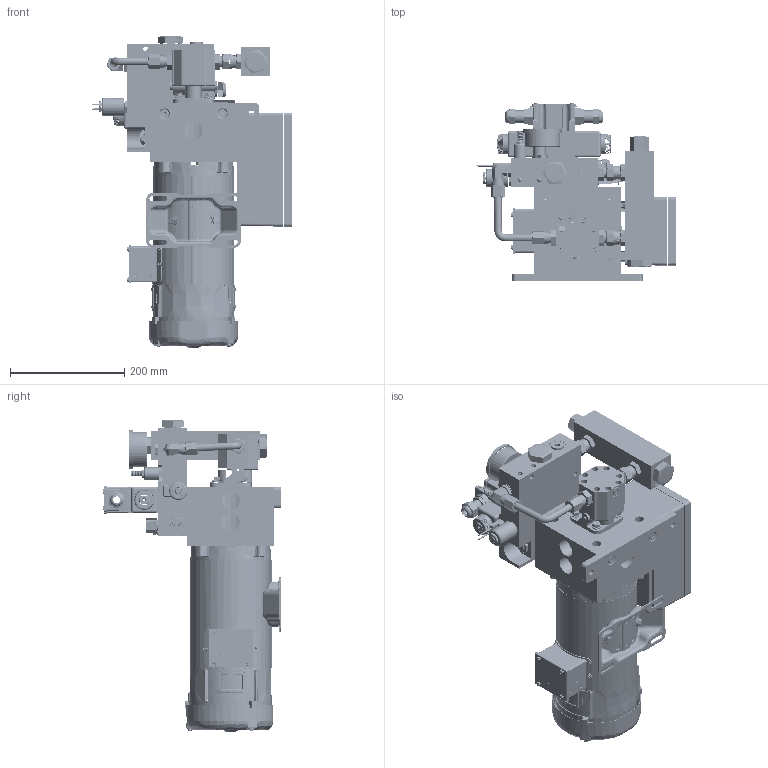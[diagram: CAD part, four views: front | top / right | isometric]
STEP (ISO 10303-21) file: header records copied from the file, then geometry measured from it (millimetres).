
FILE_DESCRIPTION (( 'STEP AP214' ), '1' );
FILE_NAME ('600-150_revB.STEP', '2019-07-26T16:41:51', ( '' ), ( '' ), 'SwSTEP 2.0', 'SolidWorks 2019', '' );
FILE_SCHEMA (( 'AUTOMOTIVE_DESIGN' ));
Length unit declared in the file: inch
Products named in the file (1): 600-150_revB
Bounding box: 351.45 x 313.63 x 546.53 mm (x, y, z)
Surface area: 932195.3 mm2 (no closed solid volume)
Topology: 0 solids, 342 shells, 3475 faces, 19648 edges, 16160 vertices
Faces by surface type: plane 1437, cylinder 1076, bspline 475, cone 458, torus 26, sphere 3
Entity records: 286490 total; most frequent: CARTESIAN_POINT 101844, ORIENTED_EDGE 25805, DIRECTION 25005, EDGE_CURVE 19596, VERTEX_POINT 16160, LINE 11237, VECTOR 11237, AXIS2_PLACEMENT_3D 6884
